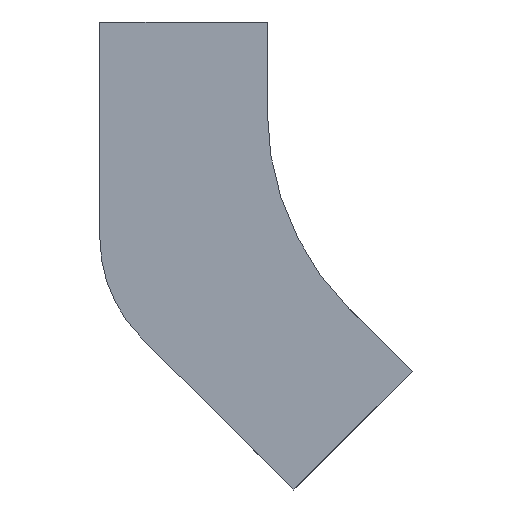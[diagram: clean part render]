
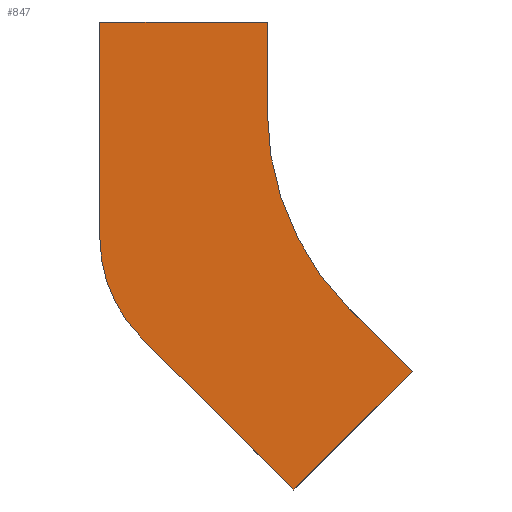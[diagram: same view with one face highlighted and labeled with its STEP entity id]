
A CAD part, front view. The second image highlights one B-rep face of the part: STEP entity #847.
In plain terms, the highlighted planar face has unit normal (0, -1, 0).
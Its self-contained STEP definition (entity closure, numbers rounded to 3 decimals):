
#22 = DIRECTION ( 'NONE',  ( 0., 0., -1. ) ) ;
#24 = DIRECTION ( 'NONE',  ( 0., 0., 1. ) ) ;
#42 = CARTESIAN_POINT ( 'NONE',  ( 0., 0., 0. ) ) ;
#69 = VERTEX_POINT ( 'NONE', #1430 ) ;
#80 = VERTEX_POINT ( 'NONE', #542 ) ;
#152 = FACE_OUTER_BOUND ( 'NONE', #189, .T. ) ;
#185 = AXIS2_PLACEMENT_3D ( 'NONE', #778, #529, #1266 ) ;
#189 = EDGE_LOOP ( 'NONE', ( #1175, #983, #1499, #630, #1042, #877, #774, #590 ) ) ;
#220 = CARTESIAN_POINT ( 'NONE',  ( -113.137, 0., -169.706 ) ) ;
#229 = CARTESIAN_POINT ( 'NONE',  ( -200., 0., -56.954 ) ) ;
#266 = VERTEX_POINT ( 'NONE', #971 ) ;
#268 = VECTOR ( 'NONE', #1553, 1000. ) ;
#281 = DIRECTION ( 'NONE',  ( 0., 0., -1. ) ) ;
#305 = PLANE ( 'NONE',  #941 ) ;
#335 = VERTEX_POINT ( 'NONE', #626 ) ;
#529 = DIRECTION ( 'NONE',  ( 0., -1., 0. ) ) ;
#542 = CARTESIAN_POINT ( 'NONE',  ( -200., 0., 40. ) ) ;
#563 = LINE ( 'NONE', #1332, #567 ) ;
#567 = VECTOR ( 'NONE', #22, 1000. ) ;
#588 = CARTESIAN_POINT ( 'NONE',  ( -88.388, 0., -88.388 ) ) ;
#590 = ORIENTED_EDGE ( 'NONE', *, *, #831, .F. ) ;
#593 = VECTOR ( 'NONE', #852, 1000. ) ;
#613 = DIRECTION ( 'NONE',  ( -0.707, 0., 0.707 ) ) ;
#626 = CARTESIAN_POINT ( 'NONE',  ( -200., 0., -56.954 ) ) ;
#630 = ORIENTED_EDGE ( 'NONE', *, *, #1179, .F. ) ;
#662 = CARTESIAN_POINT ( 'NONE',  ( -125., 0., 0. ) ) ;
#667 = LINE ( 'NONE', #1591, #783 ) ;
#698 = EDGE_CURVE ( 'NONE', #780, #266, #1080, .T. ) ;
#771 = VERTEX_POINT ( 'NONE', #1157 ) ;
#774 = ORIENTED_EDGE ( 'NONE', *, *, #698, .F. ) ;
#778 = CARTESIAN_POINT ( 'NONE',  ( 0., 0., 0. ) ) ;
#780 = VERTEX_POINT ( 'NONE', #662 ) ;
#783 = VECTOR ( 'NONE', #1197, 1000. ) ;
#817 = VERTEX_POINT ( 'NONE', #1575 ) ;
#831 = EDGE_CURVE ( 'NONE', #69, #780, #563, .T. ) ;
#847 = ADVANCED_FACE ( 'NONE', ( #152 ), #305, .T. ) ;
#850 = EDGE_CURVE ( 'NONE', #771, #817, #667, .T. ) ;
#852 = DIRECTION ( 'NONE',  ( 1., 0., 0. ) ) ;
#866 = LINE ( 'NONE', #588, #893 ) ;
#877 = ORIENTED_EDGE ( 'NONE', *, *, #1021, .F. ) ;
#893 = VECTOR ( 'NONE', #1619, 1000. ) ;
#941 = AXIS2_PLACEMENT_3D ( 'NONE', #42, #1326, #281 ) ;
#971 = CARTESIAN_POINT ( 'NONE',  ( -88.388, 0., -88.388 ) ) ;
#982 = EDGE_CURVE ( 'NONE', #80, #69, #1095, .T. ) ;
#983 = ORIENTED_EDGE ( 'NONE', *, *, #1070, .F. ) ;
#1021 = EDGE_CURVE ( 'NONE', #266, #771, #866, .T. ) ;
#1042 = ORIENTED_EDGE ( 'NONE', *, *, #850, .F. ) ;
#1070 = EDGE_CURVE ( 'NONE', #335, #80, #1678, .T. ) ;
#1080 = CIRCLE ( 'NONE', #185, 125. ) ;
#1095 = LINE ( 'NONE', #1359, #593 ) ;
#1140 = CIRCLE ( 'NONE', #1634, 62.5 ) ;
#1157 = CARTESIAN_POINT ( 'NONE',  ( -60.104, 0., -116.673 ) ) ;
#1175 = ORIENTED_EDGE ( 'NONE', *, *, #982, .F. ) ;
#1179 = EDGE_CURVE ( 'NONE', #817, #1319, #1387, .T. ) ;
#1197 = DIRECTION ( 'NONE',  ( -0.707, 0., -0.707 ) ) ;
#1210 = CARTESIAN_POINT ( 'NONE',  ( -137.5, 0., -56.954 ) ) ;
#1266 = DIRECTION ( 'NONE',  ( 0., 0., -1. ) ) ;
#1319 = VERTEX_POINT ( 'NONE', #1477 ) ;
#1326 = DIRECTION ( 'NONE',  ( 0., -1., 0. ) ) ;
#1332 = CARTESIAN_POINT ( 'NONE',  ( -125., 0., 40. ) ) ;
#1359 = CARTESIAN_POINT ( 'NONE',  ( -200., 0., 40. ) ) ;
#1387 = LINE ( 'NONE', #220, #1523 ) ;
#1430 = CARTESIAN_POINT ( 'NONE',  ( -125., 0., 40. ) ) ;
#1442 = DIRECTION ( 'NONE',  ( 0., 1., 0. ) ) ;
#1477 = CARTESIAN_POINT ( 'NONE',  ( -181.694, 0., -101.149 ) ) ;
#1499 = ORIENTED_EDGE ( 'NONE', *, *, #1658, .F. ) ;
#1523 = VECTOR ( 'NONE', #613, 1000. ) ;
#1553 = DIRECTION ( 'NONE',  ( 0., 0., 1. ) ) ;
#1575 = CARTESIAN_POINT ( 'NONE',  ( -113.137, 0., -169.706 ) ) ;
#1591 = CARTESIAN_POINT ( 'NONE',  ( -60.104, 0., -116.673 ) ) ;
#1619 = DIRECTION ( 'NONE',  ( 0.707, 0., -0.707 ) ) ;
#1634 = AXIS2_PLACEMENT_3D ( 'NONE', #1210, #1442, #24 ) ;
#1658 = EDGE_CURVE ( 'NONE', #1319, #335, #1140, .T. ) ;
#1678 = LINE ( 'NONE', #229, #268 ) ;
